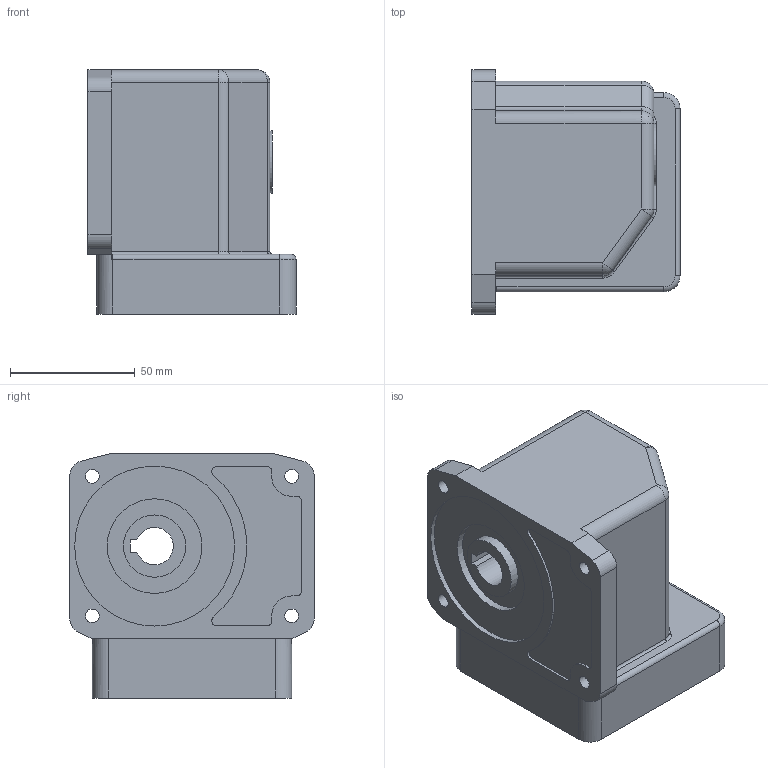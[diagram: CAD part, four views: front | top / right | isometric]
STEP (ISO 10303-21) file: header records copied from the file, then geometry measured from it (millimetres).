
FILE_DESCRIPTION((''),'2;1');
FILE_NAME('D:\작업\흐힠~\3D 모델링\SC8HA___1.stp','2015-03-31T11:52:52',('jy-jung'),(''),'Autodesk Inventor 2012','Autodesk Inventor 2012','');
FILE_SCHEMA(('AUTOMOTIVE_DESIGN { 1 0 10303 214 1 1 1 1 }'));
Length unit declared in the file: millimetre
Products named in the file (1): SC8HA_A_미주향 TYPE
Bounding box: 83.5 x 98 x 98 mm (x, y, z)
Volume: 495082.4 mm3; surface area: 52350.2 mm2
Topology: 1 solids, 1 shells, 114 faces, 275 edges, 173 vertices
Faces by surface type: cylinder 54, plane 46, torus 9, sphere 5
Full cylindrical faces by diameter (mm): 5 x4, 5.5 x4, 10 x1, 25 x2, 38 x1, 64.2 x1, 73 x1
Entity records: 3297 total; most frequent: DIRECTION 605, CARTESIAN_POINT 562, ORIENTED_EDGE 516, EDGE_CURVE 258, AXIS2_PLACEMENT_3D 234, VERTEX_POINT 171, EDGE_LOOP 149, VECTOR 137
